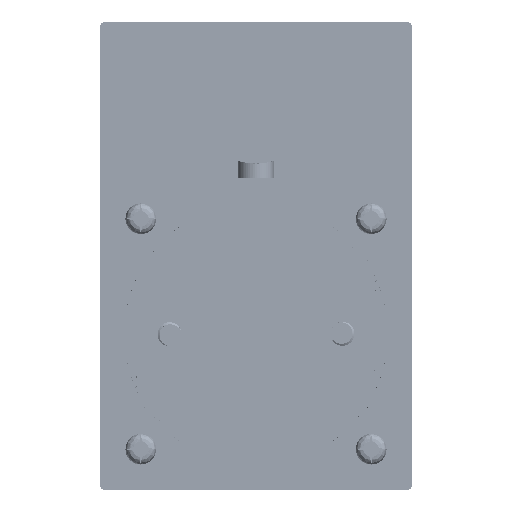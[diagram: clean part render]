
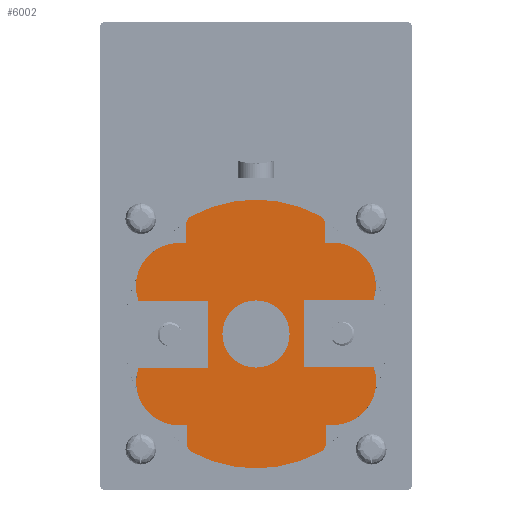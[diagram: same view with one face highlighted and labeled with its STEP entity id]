
A CAD part, front view. The second image highlights one B-rep face of the part: STEP entity #6002.
In plain terms, the highlighted planar face has unit normal (0, -1, 0).
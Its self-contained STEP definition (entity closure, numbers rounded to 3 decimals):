
#6002=ADVANCED_FACE('',(#13304,#13305),#7312,.F.);
#7312=PLANE('',#40315);
#9641=LINE('',#174817,#12281);
#9644=LINE('',#174823,#12284);
#9648=LINE('',#174835,#12288);
#9651=LINE('',#174843,#12291);
#9653=LINE('',#174847,#12293);
#9655=LINE('',#174851,#12295);
#9657=LINE('',#174867,#12297);
#9661=LINE('',#174888,#12301);
#9663=LINE('',#174905,#12303);
#9665=LINE('',#174909,#12305);
#9802=LINE('',#175271,#12442);
#9807=LINE('',#175283,#12447);
#9842=LINE('',#175397,#12482);
#9846=LINE('',#175419,#12486);
#12281=VECTOR('',#48498,1.);
#12284=VECTOR('',#48503,1.);
#12288=VECTOR('',#48515,1.);
#12291=VECTOR('',#48524,1.);
#12293=VECTOR('',#48528,1.);
#12295=VECTOR('',#48532,1.);
#12297=VECTOR('',#48540,1.);
#12301=VECTOR('',#48550,1.);
#12303=VECTOR('',#48560,1.);
#12305=VECTOR('',#48564,1.);
#12442=VECTOR('',#48925,1.);
#12447=VECTOR('',#48940,1.);
#12482=VECTOR('',#49041,1.);
#12486=VECTOR('',#49067,1.);
#13304=FACE_BOUND('',#15495,.T.);
#13305=FACE_BOUND('',#15496,.T.);
#15495=EDGE_LOOP('',(#25510,#25511,#25512,#25513,#25514,#25515,#25516,#25517,
#25518,#25519,#25520,#25521,#25522,#25523,#25524,#25525,#25526,#25527,#25528,
#25529,#25530,#25531,#25532,#25533,#25534));
#15496=EDGE_LOOP('',(#25535));
#25510=ORIENTED_EDGE('',*,*,#35067,.F.);
#25511=ORIENTED_EDGE('',*,*,#35065,.T.);
#25512=ORIENTED_EDGE('',*,*,#35061,.T.);
#25513=ORIENTED_EDGE('',*,*,#35252,.T.);
#25514=ORIENTED_EDGE('',*,*,#35320,.T.);
#25515=ORIENTED_EDGE('',*,*,#35321,.T.);
#25516=ORIENTED_EDGE('',*,*,#35322,.T.);
#25517=ORIENTED_EDGE('',*,*,#35260,.T.);
#25518=ORIENTED_EDGE('',*,*,#35057,.T.);
#25519=ORIENTED_EDGE('',*,*,#35054,.T.);
#25520=ORIENTED_EDGE('',*,*,#35051,.T.);
#25521=ORIENTED_EDGE('',*,*,#35049,.F.);
#25522=ORIENTED_EDGE('',*,*,#35047,.F.);
#25523=ORIENTED_EDGE('',*,*,#35045,.F.);
#25524=ORIENTED_EDGE('',*,*,#35043,.T.);
#25525=ORIENTED_EDGE('',*,*,#35041,.T.);
#25526=ORIENTED_EDGE('',*,*,#35313,.T.);
#25527=ORIENTED_EDGE('',*,*,#35323,.T.);
#25528=ORIENTED_EDGE('',*,*,#35324,.T.);
#25529=ORIENTED_EDGE('',*,*,#35325,.T.);
#25530=ORIENTED_EDGE('',*,*,#35326,.T.);
#25531=ORIENTED_EDGE('',*,*,#35069,.T.);
#25532=ORIENTED_EDGE('',*,*,#35038,.T.);
#25533=ORIENTED_EDGE('',*,*,#35035,.F.);
#25534=ORIENTED_EDGE('',*,*,#35032,.F.);
#25535=ORIENTED_EDGE('',*,*,#35031,.F.);
#29857=VERTEX_POINT('',#174815);
#29858=VERTEX_POINT('',#174818);
#29859=VERTEX_POINT('',#174819);
#29860=VERTEX_POINT('',#174824);
#29862=VERTEX_POINT('',#174830);
#29863=VERTEX_POINT('',#174834);
#29864=VERTEX_POINT('',#174836);
#29865=VERTEX_POINT('',#174840);
#29866=VERTEX_POINT('',#174844);
#29867=VERTEX_POINT('',#174848);
#29868=VERTEX_POINT('',#174852);
#29869=VERTEX_POINT('',#174856);
#29871=VERTEX_POINT('',#174868);
#29873=VERTEX_POINT('',#174880);
#29876=VERTEX_POINT('',#174887);
#29877=VERTEX_POINT('',#174889);
#29879=VERTEX_POINT('',#174902);
#29881=VERTEX_POINT('',#174910);
#29984=VERTEX_POINT('',#175269);
#29988=VERTEX_POINT('',#175284);
#30028=VERTEX_POINT('',#175395);
#30032=VERTEX_POINT('',#175409);
#30033=VERTEX_POINT('',#175411);
#30034=VERTEX_POINT('',#175414);
#30035=VERTEX_POINT('',#175416);
#30036=VERTEX_POINT('',#175418);
#35031=EDGE_CURVE('',#29857,#29857,#37075,.T.);
#35032=EDGE_CURVE('',#29858,#29859,#9641,.T.);
#35035=EDGE_CURVE('',#29859,#29860,#9644,.T.);
#35038=EDGE_CURVE('',#29862,#29860,#37077,.T.);
#35041=EDGE_CURVE('',#29864,#29863,#9648,.T.);
#35043=EDGE_CURVE('',#29865,#29864,#37078,.T.);
#35045=EDGE_CURVE('',#29865,#29866,#9651,.T.);
#35047=EDGE_CURVE('',#29866,#29867,#9653,.T.);
#35049=EDGE_CURVE('',#29867,#29868,#9655,.T.);
#35051=EDGE_CURVE('',#29869,#29868,#37079,.T.);
#35054=EDGE_CURVE('',#29871,#29869,#9657,.T.);
#35057=EDGE_CURVE('',#29873,#29871,#37080,.T.);
#35061=EDGE_CURVE('',#29877,#29876,#9661,.T.);
#35065=EDGE_CURVE('',#29879,#29877,#37082,.T.);
#35067=EDGE_CURVE('',#29879,#29858,#9663,.T.);
#35069=EDGE_CURVE('',#29881,#29862,#9665,.T.);
#35252=EDGE_CURVE('',#29876,#29984,#9802,.T.);
#35260=EDGE_CURVE('',#29988,#29873,#9807,.T.);
#35313=EDGE_CURVE('',#29863,#30028,#9842,.T.);
#35320=EDGE_CURVE('',#29984,#30032,#37150,.T.);
#35321=EDGE_CURVE('',#30032,#30033,#37151,.T.);
#35322=EDGE_CURVE('',#30033,#29988,#37152,.T.);
#35323=EDGE_CURVE('',#30028,#30034,#37153,.T.);
#35324=EDGE_CURVE('',#30034,#30035,#37154,.T.);
#35325=EDGE_CURVE('',#30035,#30036,#37155,.T.);
#35326=EDGE_CURVE('',#30036,#29881,#9846,.T.);
#37075=CIRCLE('',#40131,7.);
#37077=CIRCLE('',#40136,9.);
#37078=CIRCLE('',#40139,9.);
#37079=CIRCLE('',#40144,9.);
#37080=CIRCLE('',#40147,8.96);
#37082=CIRCLE('',#40151,9.);
#37150=CIRCLE('',#40309,2.);
#37151=CIRCLE('',#40310,28.);
#37152=CIRCLE('',#40311,2.);
#37153=CIRCLE('',#40312,2.);
#37154=CIRCLE('',#40313,28.);
#37155=CIRCLE('',#40314,2.);
#40131=AXIS2_PLACEMENT_3D('',#174814,#48494,#48495);
#40136=AXIS2_PLACEMENT_3D('',#174829,#48509,#48510);
#40139=AXIS2_PLACEMENT_3D('',#174839,#48519,#48520);
#40144=AXIS2_PLACEMENT_3D('',#174855,#48536,#48537);
#40147=AXIS2_PLACEMENT_3D('',#174879,#48543,#48544);
#40151=AXIS2_PLACEMENT_3D('',#174901,#48555,#48556);
#40309=AXIS2_PLACEMENT_3D('',#175408,#49055,#49056);
#40310=AXIS2_PLACEMENT_3D('',#175410,#49057,#49058);
#40311=AXIS2_PLACEMENT_3D('',#175412,#49059,#49060);
#40312=AXIS2_PLACEMENT_3D('',#175413,#49061,#49062);
#40313=AXIS2_PLACEMENT_3D('',#175415,#49063,#49064);
#40314=AXIS2_PLACEMENT_3D('',#175417,#49065,#49066);
#40315=AXIS2_PLACEMENT_3D('',#175420,#49068,#49069);
#48494=DIRECTION('',(0.,-1.,0.));
#48495=DIRECTION('',(-1.,0.,-0.003));
#48498=DIRECTION('',(-0.003,0.,1.));
#48503=DIRECTION('',(-1.,0.,-0.003));
#48509=DIRECTION('',(0.,-1.,0.));
#48510=DIRECTION('',(-1.,0.,-0.003));
#48515=DIRECTION('',(-1.,0.,-0.003));
#48519=DIRECTION('',(0.,-1.,0.));
#48520=DIRECTION('',(1.,0.,0.003));
#48524=DIRECTION('',(-1.,0.,-0.003));
#48528=DIRECTION('',(0.003,0.,-1.));
#48532=DIRECTION('',(1.,0.,0.003));
#48536=DIRECTION('',(0.,-1.,0.));
#48537=DIRECTION('',(0.,0.,-1.));
#48540=DIRECTION('',(1.,0.,0.003));
#48543=DIRECTION('',(0.,-1.,0.));
#48544=DIRECTION('',(0.,0.,-1.));
#48550=DIRECTION('',(1.,0.,0.003));
#48555=DIRECTION('',(0.,-1.,0.));
#48556=DIRECTION('',(-0.89,0.,0.456));
#48560=DIRECTION('',(1.,0.,0.003));
#48564=DIRECTION('',(-1.,0.,-0.003));
#48925=DIRECTION('',(0.003,0.,-1.));
#48940=DIRECTION('',(-0.003,0.,1.));
#49041=DIRECTION('',(-0.003,0.,1.));
#49055=DIRECTION('',(0.,-1.,0.));
#49056=DIRECTION('',(1.,0.,0.003));
#49057=DIRECTION('',(0.,-1.,0.));
#49058=DIRECTION('',(1.,0.,0.003));
#49059=DIRECTION('',(0.,-1.,0.));
#49060=DIRECTION('',(1.,0.,0.003));
#49061=DIRECTION('',(0.,-1.,0.));
#49062=DIRECTION('',(1.,0.,0.003));
#49063=DIRECTION('',(0.,-1.,0.));
#49064=DIRECTION('',(1.,0.,0.003));
#49065=DIRECTION('',(0.,-1.,0.));
#49066=DIRECTION('',(1.,0.,0.003));
#49067=DIRECTION('',(0.003,0.,-1.));
#49068=DIRECTION('',(0.,1.,0.));
#49069=DIRECTION('',(0.,0.,1.));
#174814=CARTESIAN_POINT('',(0.,-148.6,0.));
#174815=CARTESIAN_POINT('',(-7.,-148.6,-0.018));
#174817=CARTESIAN_POINT('',(-9.982,-148.6,-7.026));
#174818=CARTESIAN_POINT('',(-9.982,-148.6,-7.026));
#174819=CARTESIAN_POINT('',(-10.018,-148.6,6.974));
#174823=CARTESIAN_POINT('',(-10.018,-148.6,6.974));
#174824=CARTESIAN_POINT('',(-24.503,-148.6,6.937));
#174829=CARTESIAN_POINT('',(-16.026,-148.6,9.959));
#174830=CARTESIAN_POINT('',(-16.049,-148.6,18.959));
#174834=CARTESIAN_POINT('',(14.451,-148.6,19.037));
#174835=CARTESIAN_POINT('',(15.951,-148.6,19.041));
#174836=CARTESIAN_POINT('',(15.951,-148.6,19.041));
#174839=CARTESIAN_POINT('',(15.974,-148.6,10.041));
#174840=CARTESIAN_POINT('',(24.467,-148.6,7.063));
#174843=CARTESIAN_POINT('',(34.164,-148.6,7.088));
#174844=CARTESIAN_POINT('',(9.982,-148.6,7.026));
#174847=CARTESIAN_POINT('',(9.982,-148.6,7.026));
#174848=CARTESIAN_POINT('',(10.018,-148.6,-6.974));
#174851=CARTESIAN_POINT('',(10.018,-148.6,-6.974));
#174852=CARTESIAN_POINT('',(24.503,-148.6,-6.937));
#174855=CARTESIAN_POINT('',(16.026,-148.6,-9.959));
#174856=CARTESIAN_POINT('',(16.119,-148.6,-18.958));
#174867=CARTESIAN_POINT('',(23.752,-148.6,-18.938));
#174868=CARTESIAN_POINT('',(15.978,-148.6,-18.959));
#174879=CARTESIAN_POINT('',(16.02,-148.6,-9.999));
#174880=CARTESIAN_POINT('',(14.548,-148.6,-18.837));
#174887=CARTESIAN_POINT('',(-14.451,-148.6,-19.037));
#174888=CARTESIAN_POINT('',(23.753,-148.6,-18.934));
#174889=CARTESIAN_POINT('',(-15.951,-148.6,-19.041));
#174901=CARTESIAN_POINT('',(-15.974,-148.6,-10.041));
#174902=CARTESIAN_POINT('',(-24.468,-148.6,-7.063));
#174905=CARTESIAN_POINT('',(-34.164,-148.6,-7.088));
#174909=CARTESIAN_POINT('',(-14.549,-148.6,18.963));
#174910=CARTESIAN_POINT('',(-14.549,-148.6,18.963));
#175269=CARTESIAN_POINT('',(-14.441,-148.6,-22.835));
#175271=CARTESIAN_POINT('',(-14.451,-148.6,-19.037));
#175283=CARTESIAN_POINT('',(14.558,-148.6,-22.761));
#175284=CARTESIAN_POINT('',(14.558,-148.6,-22.761));
#175395=CARTESIAN_POINT('',(14.441,-148.6,22.835));
#175397=CARTESIAN_POINT('',(14.451,-148.6,19.037));
#175408=CARTESIAN_POINT('',(-12.441,-148.6,-22.83));
#175409=CARTESIAN_POINT('',(-13.398,-148.6,-24.586));
#175410=CARTESIAN_POINT('',(0.,-148.6,0.));
#175411=CARTESIAN_POINT('',(13.525,-148.6,-24.517));
#175412=CARTESIAN_POINT('',(12.558,-148.6,-22.766));
#175413=CARTESIAN_POINT('',(12.441,-148.6,22.83));
#175414=CARTESIAN_POINT('',(13.398,-148.6,24.586));
#175415=CARTESIAN_POINT('',(0.,-148.6,0.));
#175416=CARTESIAN_POINT('',(-13.525,-148.6,24.517));
#175417=CARTESIAN_POINT('',(-12.558,-148.6,22.766));
#175418=CARTESIAN_POINT('',(-14.558,-148.6,22.761));
#175419=CARTESIAN_POINT('',(-14.558,-148.6,22.761));
#175420=CARTESIAN_POINT('',(23.741,-148.6,-14.593));
